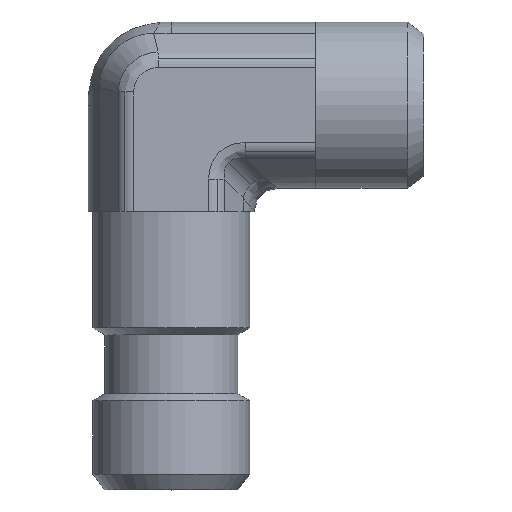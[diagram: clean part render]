
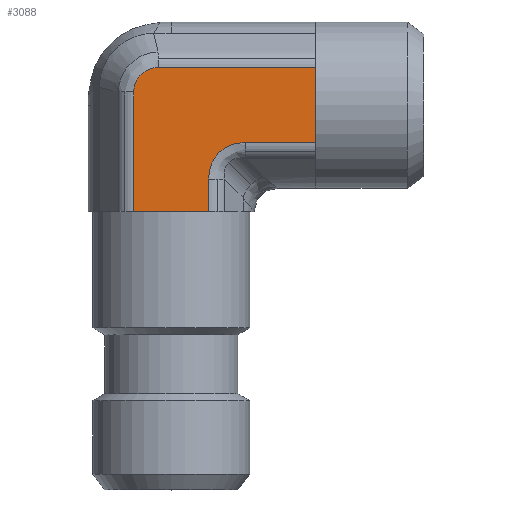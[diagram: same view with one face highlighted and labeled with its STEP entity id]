
A CAD part, top view. The second image highlights one B-rep face of the part: STEP entity #3088.
In plain terms, the highlighted planar face has unit normal (0, 0, 1) as drawn and (0, -1, 0) by its records, which use the part's own axes.
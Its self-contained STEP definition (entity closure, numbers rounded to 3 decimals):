
#319=CARTESIAN_POINT('',(1.649,-6.9,3.118));
#320=VERTEX_POINT('',#319);
#328=CARTESIAN_POINT('',(4.35,-6.9,3.118));
#329=VERTEX_POINT('',#328);
#330=CARTESIAN_POINT('',(1.649,-6.9,3.118));
#331=DIRECTION('',(1.0,0.0,0.0));
#332=VECTOR('',#331,2.701);
#333=LINE('',#330,#332);
#334=EDGE_CURVE('',#320,#329,#333,.T.);
#443=CARTESIAN_POINT('',(-7.618,-6.9,-1.091));
#444=VERTEX_POINT('',#443);
#452=CARTESIAN_POINT('',(-7.618,-6.9,12.0));
#453=VERTEX_POINT('',#452);
#454=CARTESIAN_POINT('',(-7.618,-6.9,-1.091));
#455=DIRECTION('',(0.0,0.0,1.0));
#456=VECTOR('',#455,13.091);
#457=LINE('',#454,#456);
#458=EDGE_CURVE('',#444,#453,#457,.T.);
#1784=CARTESIAN_POINT('',(-4.5,-6.9,12.0));
#1785=VERTEX_POINT('',#1784);
#1903=CARTESIAN_POINT('',(4.35,-6.9,-3.118));
#1904=VERTEX_POINT('',#1903);
#1905=CARTESIAN_POINT('',(4.35,-6.9,-3.118));
#1906=DIRECTION('',(0.0,0.0,1.0));
#1907=VECTOR('',#1906,6.235);
#1908=LINE('',#1905,#1907);
#1909=EDGE_CURVE('',#1904,#329,#1908,.T.);
#2280=CARTESIAN_POINT('',(-4.5,-6.9,12.0));
#2281=DIRECTION('',(-1.0,0.0,0.0));
#2282=VECTOR('',#2281,3.118);
#2283=LINE('',#2280,#2282);
#2284=EDGE_CURVE('',#1785,#453,#2283,.T.);
#2344=CARTESIAN_POINT('',(-1.382,-6.9,12.0));
#2345=VERTEX_POINT('',#2344);
#2346=CARTESIAN_POINT('',(-1.382,-6.9,12.0));
#2347=DIRECTION('',(-1.0,0.0,0.0));
#2348=VECTOR('',#2347,3.118);
#2349=LINE('',#2346,#2348);
#2350=EDGE_CURVE('',#2345,#1785,#2349,.T.);
#2773=CARTESIAN_POINT('',(-5.591,-6.9,-3.118));
#2774=VERTEX_POINT('',#2773);
#2782=CARTESIAN_POINT('',(-7.618,-6.9,-1.091));
#2783=CARTESIAN_POINT('',(-7.618,-6.9,-1.223));
#2784=CARTESIAN_POINT('',(-7.605,-6.9,-1.356));
#2785=CARTESIAN_POINT('',(-7.536,-6.9,-1.695));
#2786=CARTESIAN_POINT('',(-7.462,-6.9,-1.896));
#2787=CARTESIAN_POINT('',(-7.191,-6.9,-2.378));
#2788=CARTESIAN_POINT('',(-6.949,-6.9,-2.631));
#2789=CARTESIAN_POINT('',(-6.339,-6.9,-3.011));
#2790=CARTESIAN_POINT('',(-5.965,-6.9,-3.118));
#2791=CARTESIAN_POINT('',(-5.591,-6.9,-3.118));
#2792=B_SPLINE_CURVE_WITH_KNOTS('',3,(#2782,#2783,#2784,#2785,#2786,#2787,#2788,#2789,#2790,#2791),.UNSPECIFIED.,.F.,.U.,(4,2,2,2,4),(-3.166,-2.771,-2.137,-1.124,0.0),.UNSPECIFIED.);
#2793=EDGE_CURVE('',#2774,#444,#2792,.F.);
#2820=CARTESIAN_POINT('',(4.35,-6.9,-3.118));
#2821=DIRECTION('',(-1.0,0.0,0.0));
#2822=VECTOR('',#2821,9.941);
#2823=LINE('',#2820,#2822);
#2824=EDGE_CURVE('',#1904,#2774,#2823,.T.);
#2956=CARTESIAN_POINT('',(-1.382,-6.9,6.149));
#2957=VERTEX_POINT('',#2956);
#2958=CARTESIAN_POINT('',(-1.382,-6.9,12.0));
#2959=DIRECTION('',(0.0,0.0,-1.0));
#2960=VECTOR('',#2959,5.851);
#2961=LINE('',#2958,#2960);
#2962=EDGE_CURVE('',#2345,#2957,#2961,.T.);
#3045=CARTESIAN_POINT('',(2.659,-6.9,7.159));
#3046=DIRECTION('',(0.,-1.,0.));
#3047=DIRECTION('',(-0.707,0.,-0.707));
#3048=AXIS2_PLACEMENT_3D('',#3045,#3046,#3047);
#3049=ELLIPSE('',#3048,4.518,3.5);
#3050=EDGE_CURVE('',#2957,#320,#3049,.T.);
#3072=CARTESIAN_POINT('',(-4.5,-6.9,-3.175));
#3073=DIRECTION('',(0.0,-1.0,0.0));
#3074=DIRECTION('',(0.0,0.0,-1.0));
#3075=AXIS2_PLACEMENT_3D('',#3072,#3073,#3074);
#3076=PLANE('',#3075);
#3077=ORIENTED_EDGE('',*,*,#1909,.T.);
#3078=ORIENTED_EDGE('',*,*,#334,.F.);
#3079=ORIENTED_EDGE('',*,*,#3050,.F.);
#3080=ORIENTED_EDGE('',*,*,#2962,.F.);
#3081=ORIENTED_EDGE('',*,*,#2350,.T.);
#3082=ORIENTED_EDGE('',*,*,#2284,.T.);
#3083=ORIENTED_EDGE('',*,*,#458,.F.);
#3084=ORIENTED_EDGE('',*,*,#2793,.F.);
#3085=ORIENTED_EDGE('',*,*,#2824,.F.);
#3086=EDGE_LOOP('',(#3077,#3078,#3079,#3080,#3081,#3082,#3083,#3084,#3085));
#3087=FACE_OUTER_BOUND('',#3086,.T.);
#3088=ADVANCED_FACE('',(#3087),#3076,.T.);
